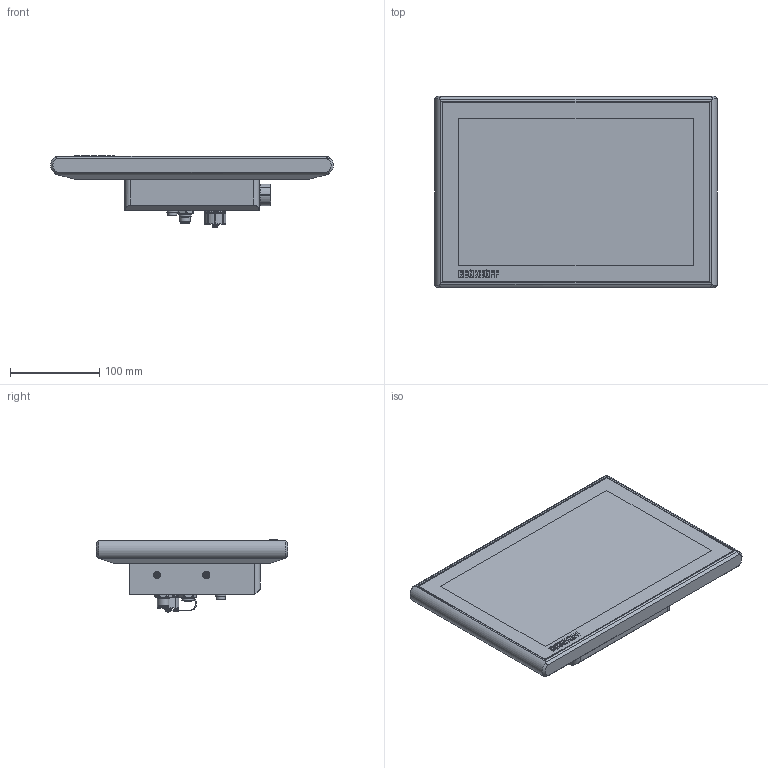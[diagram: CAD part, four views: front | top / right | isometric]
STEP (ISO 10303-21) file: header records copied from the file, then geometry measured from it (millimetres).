
FILE_DESCRIPTION(/* description */ ('-'),/* implementation_level */ '2;1');
FILE_NAME(/* name */ 'C:\Export\0000011653.stp',/* time_stamp */ '2022-01-05T08:20:33+01:00',/* author */ ('-'),/* organization */ ('(c) Beckhoff Automation GmbH & Co. KG, 33415 Verl'),/* preprocessor_version */ 'ST-DEVELOPER v18.1',/* originating_system */ 'Autodesk Inventor 2020',/* authorisation */ '-');
FILE_SCHEMA (('AUTOMOTIVE_DESIGN { 1 0 10303 214 3 1 1 }'));
Products named in the file (1): 0000011653_CP3913-0010-M338-E274-E324
Bounding box: 316.36 x 214 x 80.57 mm (x, y, z)
Volume: 2385610.8 mm3; surface area: 218541.2 mm2
Topology: 1 solids, 31 shells, 1801 faces, 4698 edges, 3125 vertices
Faces by surface type: plane 938, bspline 420, cylinder 339, cone 71, torus 32, sphere 1
Full cylindrical faces by diameter (mm): 0.8 x3, 1 x4, 1.2 x4, 2 x1, 3 x1, 3.242 x1, 3.4 x4, 3.8 x1, 4 x1, 4.134 x4, 4.917 x4, 5.2 x1, 5.5 x4, 5.7 x2, 7 x3, 8 x2, 8.3 x1, 8.5 x4, 8.8 x4, 9 x4, 10 x1, 10.5 x1, 12 x2, 21 x3, 22 x2, 24 x2, 24.5 x1
Entity records: 65103 total; most frequent: CARTESIAN_POINT 21000, ORIENTED_EDGE 9392, DIRECTION 7504, EDGE_CURVE 4696, VERTEX_POINT 3125, LINE 2814, VECTOR 2814, AXIS2_PLACEMENT_3D 2345
